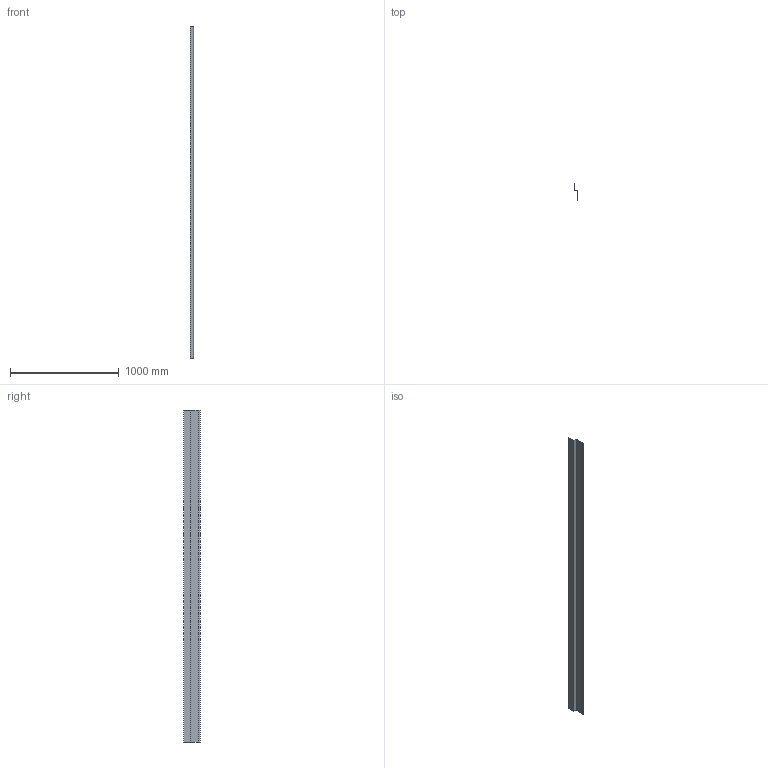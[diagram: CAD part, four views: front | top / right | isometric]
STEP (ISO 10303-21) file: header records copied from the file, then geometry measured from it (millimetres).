
FILE_DESCRIPTION(/* description */ (''),/* implementation_level */ '2;1');
FILE_NAME(/* name */ 'M13I (1-2).stp',/* time_stamp */ '2025-05-14T09:56:13-04:00',/* author */ ('gabrielle.gilbert'),/* organization */ (''),/* preprocessor_version */ 'ST-DEVELOPER v20',/* originating_system */ 'Autodesk Inventor 2025',/* authorisation */ '');
FILE_SCHEMA (('AUTOMOTIVE_DESIGN { 1 0 10303 214 3 1 1 }'));
Length unit declared in the file: inch
Products named in the file (1): M13I (1-2)
Bounding box: 32.79 x 155.19 x 3048 mm (x, y, z)
Volume: 285739.2 mm3; surface area: 1259894.6 mm2
Topology: 1 solids, 1 shells, 18 faces, 48 edges, 32 vertices
Faces by surface type: plane 12, cylinder 6
Entity records: 609 total; most frequent: CARTESIAN_POINT 99, DIRECTION 98, ORIENTED_EDGE 96, EDGE_CURVE 48, LINE 36, VECTOR 36, VERTEX_POINT 32, AXIS2_PLACEMENT_3D 31
